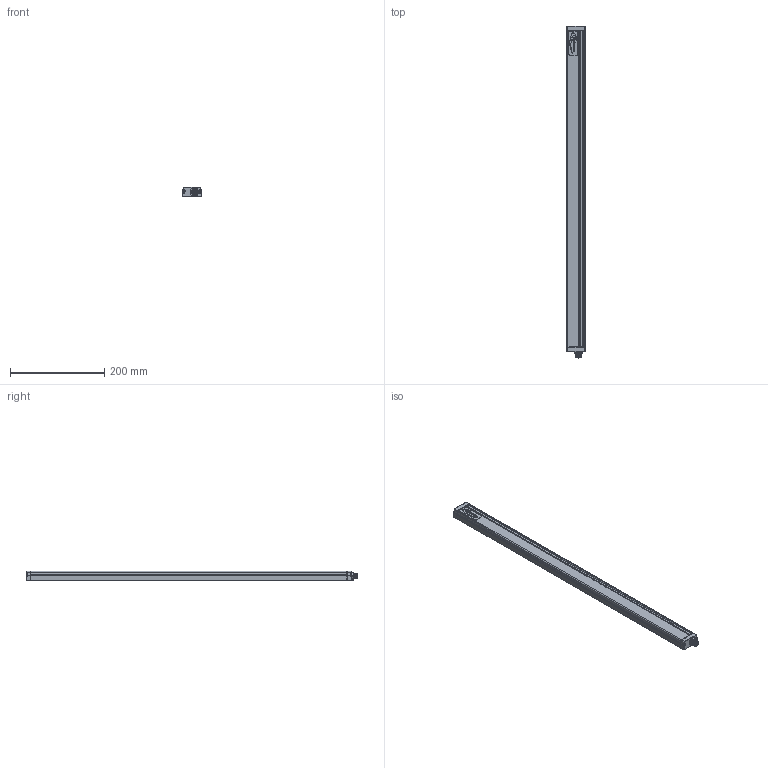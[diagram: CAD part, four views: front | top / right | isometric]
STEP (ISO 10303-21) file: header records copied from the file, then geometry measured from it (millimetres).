
FILE_DESCRIPTION(/* description */ (''),/* implementation_level */ '2;1');
FILE_NAME(/* name */ 'C:\Users\andre\SynologyDrive\Optoscan\Libreria Componenti\00 - Barriere\Polaris sorgente\Barriera Polaris RX\Polaris_670_RX.stp',/* time_stamp */ '2021-06-04T11:49:12+02:00',/* author */ ('andre'),/* organization */ (''),/* preprocessor_version */ 'ST-DEVELOPER v18',/* originating_system */ 'Autodesk Inventor 2020',/* authorisation */ '');
FILE_SCHEMA (('AUTOMOTIVE_DESIGN { 1 0 10303 214 3 1 1 }'));
Length unit declared in the file: millimetre
Products named in the file (1): Polaris_670_RX
Bounding box: 40.5 x 705.3 x 20.75 mm (x, y, z)
Volume: 142261.6 mm3; surface area: 184621.5 mm2
Topology: 1 solids, 1 shells, 700 faces, 1926 edges, 1237 vertices
Faces by surface type: plane 319, cylinder 199, bspline 94, torus 70, sphere 10, cone 8
Full cylindrical faces by diameter (mm): 1 x8, 2.459 x4, 2.5 x4, 3 x4, 3.5 x4, 5.5 x4, 8 x1, 10.5 x2, 11.75 x9, 15.7 x1, 17.5 x1
Entity records: 28472 total; most frequent: CARTESIAN_POINT 10246, ORIENTED_EDGE 3826, DIRECTION 3447, EDGE_CURVE 1913, VERTEX_POINT 1237, AXIS2_PLACEMENT_3D 1211, LINE 1025, VECTOR 1025
